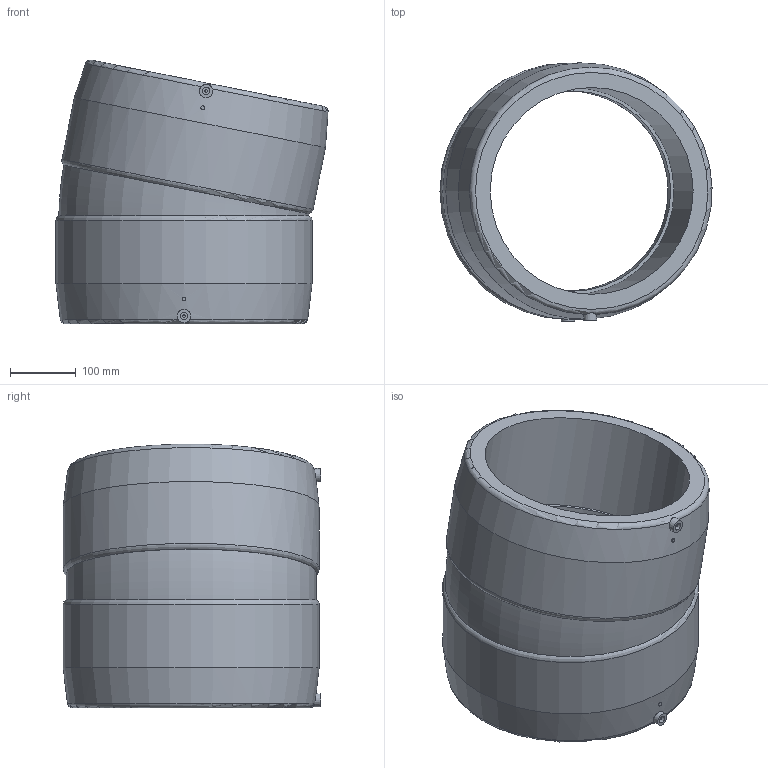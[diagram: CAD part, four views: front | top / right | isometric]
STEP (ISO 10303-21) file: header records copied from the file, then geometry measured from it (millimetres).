
FILE_DESCRIPTION(/* description */ ('Unknown'),/* implementation_level */ '2;1');
FILE_NAME(/* name */ 'GE1125P315C',/* time_stamp */ '2020-11-30T16:06:11+01:00',/* author */ ('Unknown'),/* organization */ ('Unknown'),/* preprocessor_version */ 'ST-DEVELOPER v16.7',/* originating_system */ 'Solid Edge',/* authorisation */ 'Unknown');
FILE_SCHEMA (('AUTOMOTIVE_DESIGN {1 0 10303 214 3 1 1}'));
Length unit declared in the file: millimetre
Products named in the file (1): GE1125P315C
Bounding box: 414.37 x 392.5 x 401.79 mm (x, y, z)
Volume: 14882580.8 mm3; surface area: 900214 mm2
Topology: 1 solids, 1 shells, 38 faces, 93 edges, 65 vertices
Faces by surface type: cylinder 14, plane 12, torus 8, cone 4
Full cylindrical faces by diameter (mm): 4 x2, 6 x2, 11.5 x2, 305 x2, 315 x2, 390 x2
Entity records: 1060 total; most frequent: CARTESIAN_POINT 304, DIRECTION 160, ORIENTED_EDGE 112, AXIS2_PLACEMENT_3D 79, EDGE_LOOP 67, FACE_BOUND 67, EDGE_CURVE 56, VERTEX_POINT 51
